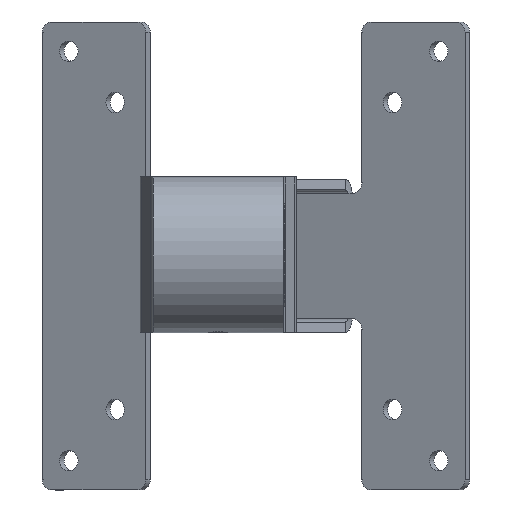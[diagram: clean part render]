
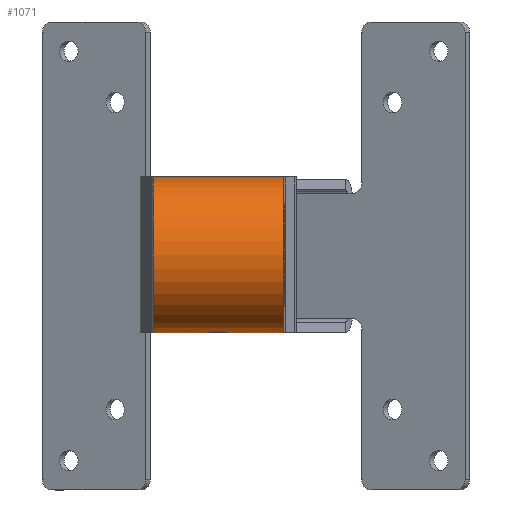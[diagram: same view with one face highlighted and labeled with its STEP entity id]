
A CAD part, left-side view. The second image highlights one B-rep face of the part: STEP entity #1071.
In plain terms, the highlighted cylindrical face has radius 19.05 mm (diameter 38.1 mm), a partial arc.
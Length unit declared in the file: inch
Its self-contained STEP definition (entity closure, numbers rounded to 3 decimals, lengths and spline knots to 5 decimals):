
#571 = CARTESIAN_POINT ( 'NONE',  ( -2.25, 0.75, 0.75 ) ) ;
#572 = DIRECTION ( 'NONE',  ( 0., -1., 0. ) ) ;
#573 = DIRECTION ( 'NONE',  ( 0., 0., -1. ) ) ;
#1071 = ADVANCED_FACE ( 'NONE', ( #11973 ), #12019, .T. ) ;
#2929 = B_SPLINE_CURVE_WITH_KNOTS ( 'NONE', 3,
 ( #7673, #7687, #7661, #7705, #7686, #7706, #7713, #7670, #7689, #7662, #7671, #7714, #7707, #7666, #7679, #7690, #7691, #7692 ),
 .UNSPECIFIED., .F., .F.,
 ( 4, 2, 2, 2, 2, 2, 2, 2, 4 ),
 ( 0.00424, 0.00476, 0.00529, 0.00582, 0.00635, 0.00688, 0.00741, 0.00794, 0.00847 ),
 .UNSPECIFIED. ) ;
#2931 = B_SPLINE_CURVE_WITH_KNOTS ( 'NONE', 3,
 ( #13064, #13065, #13066, #13067, #13070, #13039, #13018, #13019, #13020, #13021, #13040, #13022, #13023, #13042, #13028, #13031, #13035, #13041 ),
 .UNSPECIFIED., .F., .F.,
 ( 4, 2, 2, 2, 2, 2, 2, 2, 4 ),
 ( 0., 0.00053, 0.00106, 0.00159, 0.00212, 0.00265, 0.00318, 0.00371, 0.00424 ),
 .UNSPECIFIED. ) ;
#3336 = AXIS2_PLACEMENT_3D ( 'NONE', #571, #572, #573 ) ;
#3675 = EDGE_CURVE ( 'NONE', #8940, #8961, #9786, .T. ) ;
#3739 = EDGE_CURVE ( 'NONE', #8859, #8936, #2929, .T. ) ;
#3740 = EDGE_CURVE ( 'NONE', #8861, #8895, #9883, .T. ) ;
#3760 = EDGE_CURVE ( 'NONE', #8861, #8961, #9913, .T. ) ;
#3773 = EDGE_CURVE ( 'NONE', #8895, #8859, #2931, .T. ) ;
#3782 = EDGE_CURVE ( 'NONE', #8936, #8980, #9938, .T. ) ;
#3786 = EDGE_CURVE ( 'NONE', #8940, #8980, #9971, .T. ) ;
#4293 = CARTESIAN_POINT ( 'NONE',  ( -2.3565, 0., 0.0076 ) ) ;
#4307 = CARTESIAN_POINT ( 'NONE',  ( -2.25, -0.1065, 0. ) ) ;
#4315 = CARTESIAN_POINT ( 'NONE',  ( -2.25, -0.625, 0. ) ) ;
#4317 = CARTESIAN_POINT ( 'NONE',  ( -2.25, 0.625, 1.5 ) ) ;
#4365 = CARTESIAN_POINT ( 'NONE',  ( -2.25, 0.1065, 0. ) ) ;
#4377 = CARTESIAN_POINT ( 'NONE',  ( -2.25, -0.625, 1.5 ) ) ;
#4443 = CARTESIAN_POINT ( 'NONE',  ( -2.25, 0.625, 0. ) ) ;
#7230 = CARTESIAN_POINT ( 'NONE',  ( -2.25, 0., 1.5 ) ) ;
#7268 = DIRECTION ( 'NONE',  ( 0., -1., 0. ) ) ;
#7661 = CARTESIAN_POINT ( 'NONE',  ( -2.3558, 0.01401, 0.0075 ) ) ;
#7662 = CARTESIAN_POINT ( 'NONE',  ( -2.32037, 0.08025, 0.00329 ) ) ;
#7666 = CARTESIAN_POINT ( 'NONE',  ( -2.28438, 0.10104, 0.00076 ) ) ;
#7670 = CARTESIAN_POINT ( 'NONE',  ( -2.33469, 0.06494, 0.00479 ) ) ;
#7671 = CARTESIAN_POINT ( 'NONE',  ( -2.315, 0.08465, 0.0028 ) ) ;
#7673 = CARTESIAN_POINT ( 'NONE',  ( -2.3565, 0., 0.0076 ) ) ;
#7679 = CARTESIAN_POINT ( 'NONE',  ( -2.27774, 0.10306, 0.00048 ) ) ;
#7686 = CARTESIAN_POINT ( 'NONE',  ( -2.35106, 0.03431, 0.00684 ) ) ;
#7687 = CARTESIAN_POINT ( 'NONE',  ( -2.3565, 0.00695, 0.0076 ) ) ;
#7689 = CARTESIAN_POINT ( 'NONE',  ( -2.33029, 0.07033, 0.00429 ) ) ;
#7690 = CARTESIAN_POINT ( 'NONE',  ( -2.26409, 0.10579, 0.0001 ) ) ;
#7691 = CARTESIAN_POINT ( 'NONE',  ( -2.25704, 0.1065, 0. ) ) ;
#7692 = CARTESIAN_POINT ( 'NONE',  ( -2.25, 0.1065, 0. ) ) ;
#7698 = DIRECTION ( 'NONE',  ( 0., 1., 0. ) ) ;
#7705 = CARTESIAN_POINT ( 'NONE',  ( -2.35308, 0.02767, 0.00712 ) ) ;
#7706 = CARTESIAN_POINT ( 'NONE',  ( -2.34572, 0.0472, 0.00613 ) ) ;
#7707 = CARTESIAN_POINT ( 'NONE',  ( -2.29726, 0.09569, 0.00146 ) ) ;
#7709 = CARTESIAN_POINT ( 'NONE',  ( -2.25, 0.75, 0. ) ) ;
#7713 = CARTESIAN_POINT ( 'NONE',  ( -2.34239, 0.05342, 0.0057 ) ) ;
#7714 = CARTESIAN_POINT ( 'NONE',  ( -2.30348, 0.09236, 0.00189 ) ) ;
#8859 = VERTEX_POINT ( 'NONE', #4293 ) ;
#8861 = VERTEX_POINT ( 'NONE', #4315 ) ;
#8895 = VERTEX_POINT ( 'NONE', #4307 ) ;
#8936 = VERTEX_POINT ( 'NONE', #4365 ) ;
#8940 = VERTEX_POINT ( 'NONE', #4317 ) ;
#8961 = VERTEX_POINT ( 'NONE', #4377 ) ;
#8980 = VERTEX_POINT ( 'NONE', #4443 ) ;
#9312 = ORIENTED_EDGE ( 'NONE', *, *, #3675, .F. ) ;
#9313 = ORIENTED_EDGE ( 'NONE', *, *, #3782, .F. ) ;
#9317 = ORIENTED_EDGE ( 'NONE', *, *, #3740, .F. ) ;
#9324 = ORIENTED_EDGE ( 'NONE', *, *, #3739, .F. ) ;
#9330 = ORIENTED_EDGE ( 'NONE', *, *, #3760, .T. ) ;
#9352 = ORIENTED_EDGE ( 'NONE', *, *, #3773, .F. ) ;
#9362 = ORIENTED_EDGE ( 'NONE', *, *, #3786, .T. ) ;
#9786 = LINE ( 'NONE', #7230, #9789 ) ;
#9789 = VECTOR ( 'NONE', #7268, 39.37008 ) ;
#9839 = VECTOR ( 'NONE', #7698, 39.37008 ) ;
#9883 = LINE ( 'NONE', #7709, #9839 ) ;
#9913 = CIRCLE ( 'NONE', #11568, 0.75 ) ;
#9938 = LINE ( 'NONE', #13078, #9972 ) ;
#9971 = CIRCLE ( 'NONE', #11569, 0.75 ) ;
#9972 = VECTOR ( 'NONE', #13101, 39.37008 ) ;
#11238 = EDGE_LOOP ( 'NONE', ( #9317, #9330, #9312, #9362, #9313, #9324, #9352 ) ) ;
#11568 = AXIS2_PLACEMENT_3D ( 'NONE', #13009, #13012, #12995 ) ;
#11569 = AXIS2_PLACEMENT_3D ( 'NONE', #13086, #13088, #13075 ) ;
#11973 = FACE_OUTER_BOUND ( 'NONE', #11238, .T. ) ;
#12019 = CYLINDRICAL_SURFACE ( 'NONE', #3336, 0.75 ) ;
#12995 = DIRECTION ( 'NONE',  ( 1., 0., 0. ) ) ;
#13009 = CARTESIAN_POINT ( 'NONE',  ( -2.25, -0.625, 0.75 ) ) ;
#13012 = DIRECTION ( 'NONE',  ( 0., 1., 0. ) ) ;
#13018 = CARTESIAN_POINT ( 'NONE',  ( -2.30339, -0.09241, 0.00188 ) ) ;
#13019 = CARTESIAN_POINT ( 'NONE',  ( -2.31496, -0.08468, 0.0028 ) ) ;
#13020 = CARTESIAN_POINT ( 'NONE',  ( -2.32043, -0.08019, 0.0033 ) ) ;
#13021 = CARTESIAN_POINT ( 'NONE',  ( -2.33024, -0.07037, 0.00429 ) ) ;
#13022 = CARTESIAN_POINT ( 'NONE',  ( -2.34243, -0.05336, 0.00571 ) ) ;
#13023 = CARTESIAN_POINT ( 'NONE',  ( -2.34573, -0.04718, 0.00613 ) ) ;
#13028 = CARTESIAN_POINT ( 'NONE',  ( -2.35309, -0.02763, 0.00712 ) ) ;
#13031 = CARTESIAN_POINT ( 'NONE',  ( -2.35582, -0.01388, 0.0075 ) ) ;
#13035 = CARTESIAN_POINT ( 'NONE',  ( -2.3565, -0.00696, 0.0076 ) ) ;
#13039 = CARTESIAN_POINT ( 'NONE',  ( -2.29727, -0.09569, 0.00146 ) ) ;
#13040 = CARTESIAN_POINT ( 'NONE',  ( -2.33465, -0.06501, 0.00478 ) ) ;
#13041 = CARTESIAN_POINT ( 'NONE',  ( -2.3565, 0., 0.0076 ) ) ;
#13042 = CARTESIAN_POINT ( 'NONE',  ( -2.35104, -0.03436, 0.00683 ) ) ;
#13064 = CARTESIAN_POINT ( 'NONE',  ( -2.25, -0.1065, 0. ) ) ;
#13065 = CARTESIAN_POINT ( 'NONE',  ( -2.25705, -0.1065, 0. ) ) ;
#13066 = CARTESIAN_POINT ( 'NONE',  ( -2.26398, -0.10581, 0.0001 ) ) ;
#13067 = CARTESIAN_POINT ( 'NONE',  ( -2.2776, -0.10309, 0.00048 ) ) ;
#13070 = CARTESIAN_POINT ( 'NONE',  ( -2.28438, -0.10104, 0.00076 ) ) ;
#13075 = DIRECTION ( 'NONE',  ( -1., 0., 0. ) ) ;
#13078 = CARTESIAN_POINT ( 'NONE',  ( -2.25, 0.75, 0. ) ) ;
#13086 = CARTESIAN_POINT ( 'NONE',  ( -2.25, 0.625, 0.75 ) ) ;
#13088 = DIRECTION ( 'NONE',  ( 0., -1., 0. ) ) ;
#13101 = DIRECTION ( 'NONE',  ( 0., 1., 0. ) ) ;
